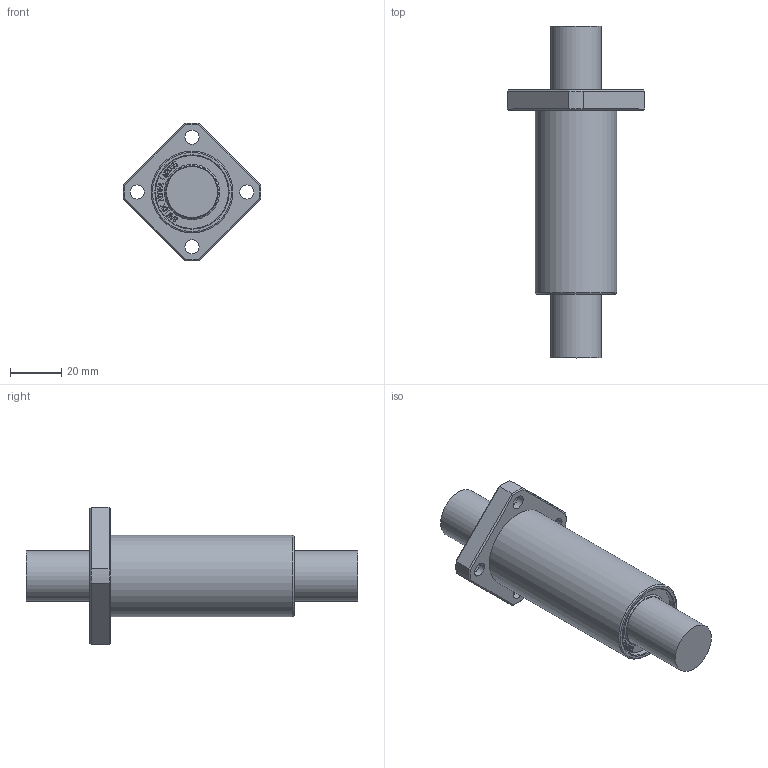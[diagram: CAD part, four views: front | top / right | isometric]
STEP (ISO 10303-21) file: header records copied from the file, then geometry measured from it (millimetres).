
FILE_DESCRIPTION(/* description */ (''),/* implementation_level */ '2;1');
FILE_NAME(/* name */ 'W:\(01) 2024년 홈페이지 CAD파일 최신화\LMEK_L\IPT\LMEK20LUU.stp',/* time_stamp */ '2025-01-25T11:02:42+09:00',/* author */ ('서우현'),/* organization */ (''),/* preprocessor_version */ 'ST-DEVELOPER v17.2',/* originating_system */ 'Autodesk Inventor 2019',/* authorisation */ '');
FILE_SCHEMA (('AUTOMOTIVE_DESIGN { 1 0 10303 214 3 1 1 }'));
Length unit declared in the file: millimetre
Products named in the file (1): LM5
Bounding box: 53.97 x 130 x 53.97 mm (x, y, z)
Volume: 84235.6 mm3; surface area: 16368.7 mm2
Topology: 1 solids, 1 shells, 864 faces, 2426 edges, 1620 vertices
Faces by surface type: bspline 592, plane 240, cylinder 18, cone 12, torus 2
Full cylindrical faces by diameter (mm): 5.5 x4, 9.5 x4, 20 x2, 28.5 x2, 32 x2
Entity records: 29700 total; most frequent: CARTESIAN_POINT 11003, ORIENTED_EDGE 4852, EDGE_CURVE 2426, DIRECTION 1854, VERTEX_POINT 1620, B_SPLINE_CURVE_WITH_KNOTS 1184, LINE 1144, VECTOR 1144
